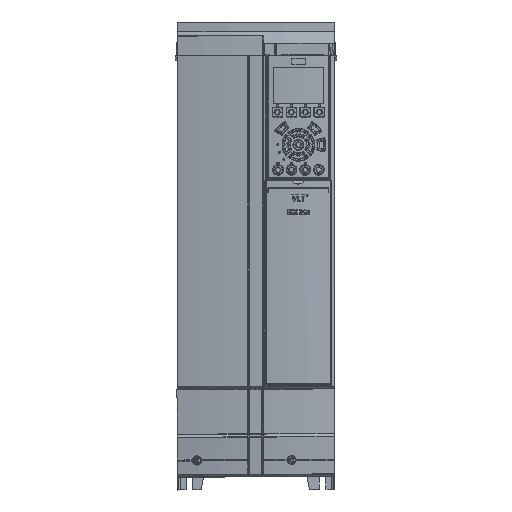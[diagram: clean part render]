
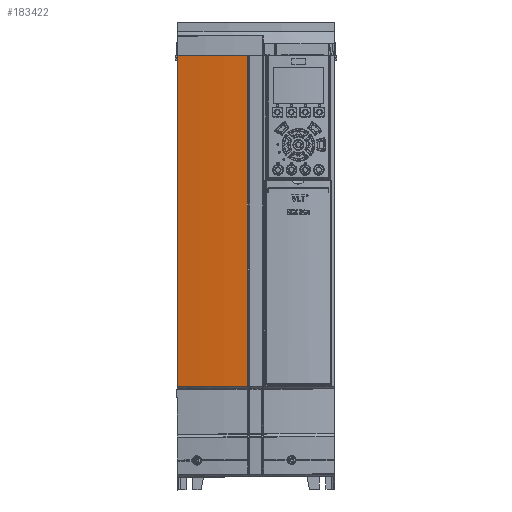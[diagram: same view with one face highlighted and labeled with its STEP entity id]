
A CAD part, top view. The second image highlights one B-rep face of the part: STEP entity #183422.
In plain terms, the highlighted cylindrical face has radius 574.02 mm (diameter 1148.04 mm), a partial arc.
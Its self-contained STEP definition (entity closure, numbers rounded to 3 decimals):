
#46058=DIRECTION('',(0.,-1.,0.));
#46059=VECTOR('',#46058,346.896);
#46060=CARTESIAN_POINT('',(-82.111,174.5,232.048));
#46061=LINE('',#46060,#46059);
#46065=CARTESIAN_POINT('',(44.923,174.5,-327.738));
#46066=DIRECTION('',(0.,1.,0.));
#46067=DIRECTION('',(-0.221,0.,0.975));
#46068=AXIS2_PLACEMENT_3D('',#46065,#46066,#46067);
#46073=DIRECTION('',(0.,1.,0.));
#46074=VECTOR('',#46073,346.896);
#46075=CARTESIAN_POINT('',(-8.928,-172.396,
243.75));
#46076=LINE('',#46075,#46074);
#46080=CARTESIAN_POINT('',(44.923,-172.396,
-327.738));
#46081=DIRECTION('',(0.,1.,0.));
#46082=DIRECTION('',(-0.221,0.,0.975));
#46083=AXIS2_PLACEMENT_3D('',#46080,#46081,#46082);
#46088=CARTESIAN_POINT('',(-82.111,-172.396,
232.048));
#46089=CARTESIAN_POINT('',(-82.108,-172.396,
232.049));
#46090=CARTESIAN_POINT('',(-82.103,-172.396,
232.05));
#46091=CARTESIAN_POINT('',(-82.097,-172.396,
232.052));
#46092=CARTESIAN_POINT('',(-82.094,-172.396,
232.052));
#46097=CARTESIAN_POINT('',(-82.111,174.5,232.048));
#46124=CARTESIAN_POINT('',(-82.111,-172.396,
232.048));
#115600=VERTEX_POINT('',#46124);
#115602=VERTEX_POINT('',#46092);
#115660=CARTESIAN_POINT('',(-8.928,-172.396,
243.75));
#115661=CARTESIAN_POINT('',(-8.928,174.5,
243.75));
#115662=VERTEX_POINT('',#115660);
#115663=VERTEX_POINT('',#115661);
#116594=VERTEX_POINT('',#46097);
#183407=CARTESIAN_POINT('',(44.923,-175.,-327.738));
#183408=DIRECTION('',(0.,1.,0.));
#183409=DIRECTION('',(0.,0.,1.));
#183410=AXIS2_PLACEMENT_3D('',#183407,#183408,#183409);
#183411=CYLINDRICAL_SURFACE('',#183410,574.02);
#183413=ORIENTED_EDGE('',*,*,#183412,.F.);
#183414=ORIENTED_EDGE('',*,*,#180370,.T.);
#183415=ORIENTED_EDGE('',*,*,#183391,.F.);
#183417=ORIENTED_EDGE('',*,*,#183416,.F.);
#183419=ORIENTED_EDGE('',*,*,#183418,.F.);
#183420=EDGE_LOOP('',(#183413,#183414,#183415,#183417,#183419));
#183421=FACE_OUTER_BOUND('',#183420,.F.);
#183422=ADVANCED_FACE('',(#183421),#183411,.T.);
#46069=CIRCLE('',#46068,574.02);
#46084=CIRCLE('',#46083,574.02);
#46093=B_SPLINE_CURVE_WITH_KNOTS('',3,(#46088,#46089,#46090,#46091,#46092),
.UNSPECIFIED.,.F.,.F.,(4,1,4),(0.,0.5,1.),.UNSPECIFIED.);
#180370=EDGE_CURVE('',#116594,#115663,#46069,.T.);
#183391=EDGE_CURVE('',#115662,#115663,#46076,.T.);
#183412=EDGE_CURVE('',#116594,#115600,#46061,.T.);
#183416=EDGE_CURVE('',#115602,#115662,#46084,.T.);
#183418=EDGE_CURVE('',#115600,#115602,#46093,.T.);
